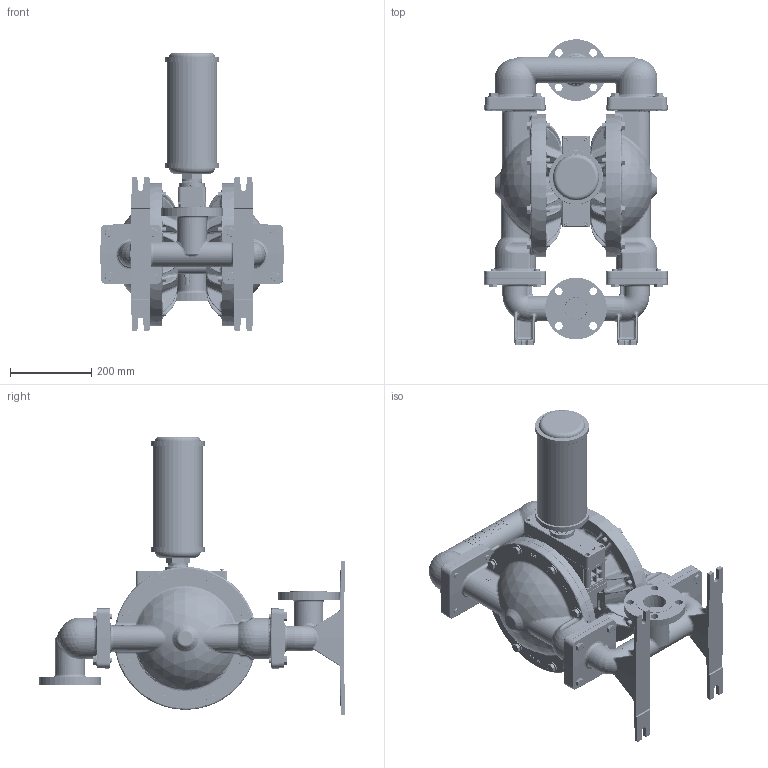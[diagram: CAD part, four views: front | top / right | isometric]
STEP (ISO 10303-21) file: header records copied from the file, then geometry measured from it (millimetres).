
FILE_DESCRIPTION (( 'STEP AP203' ), '1' );
FILE_NAME ('PS830_ADV_SS_ANSI.STEP', '2022-07-04T13:27:31', ( '' ), ( '' ), 'SwSTEP 2.0', 'SolidWorks 2019', '' );
FILE_SCHEMA (( 'CONFIG_CONTROL_DESIGN' ));
Length unit declared in the file: inch
Products named in the file (1): PS830_ADV_SS_ANSI
Bounding box: 452.41 x 754 x 687.2 mm (x, y, z)
Volume: 30814813.4 mm3; surface area: 1667604.1 mm2
Topology: 1 solids, 1 shells, 7494 faces, 19424 edges, 12175 vertices
Faces by surface type: plane 4172, bspline 1121, cylinder 1038, cone 533, torus 374, sphere 256
Entity records: 520068 total; most frequent: CARTESIAN_POINT 346182, ORIENTED_EDGE 38760, DIRECTION 32446, EDGE_CURVE 19380, VERTEX_POINT 12163, LINE 11420, VECTOR 11420, AXIS2_PLACEMENT_3D 10513
